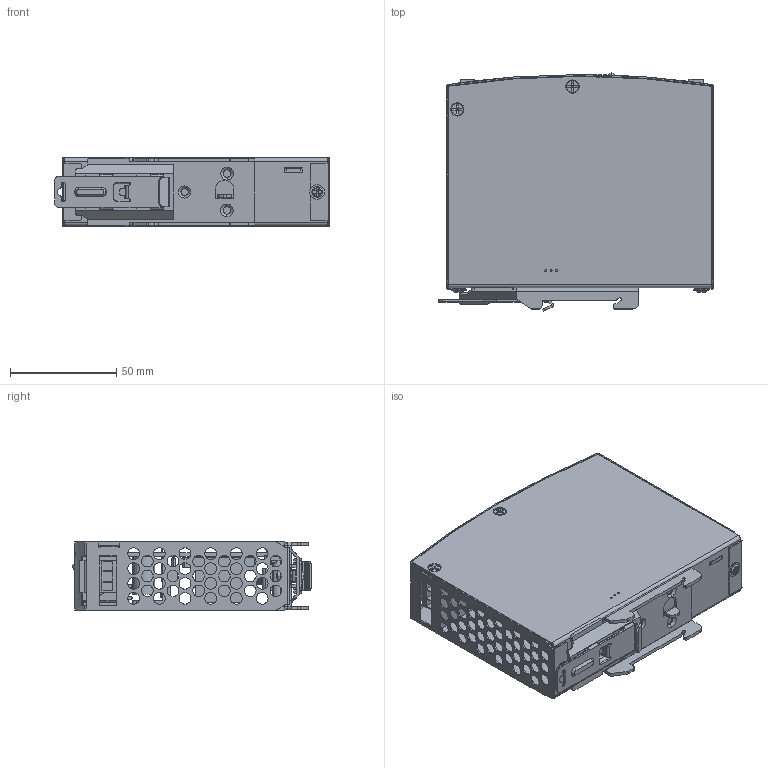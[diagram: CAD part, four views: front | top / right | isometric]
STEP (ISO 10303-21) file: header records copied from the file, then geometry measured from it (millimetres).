
FILE_DESCRIPTION((''),'2;1');
FILE_NAME('YSD60-2022__ASM','2023-03-25T',('Administrator'),(''),'PRO/ENGINEER BY PARAMETRIC TECHNOLOGY CORPORATION, 2010280','PRO/ENGINEER BY PARAMETRIC TECHNOLOGY CORPORATION, 2010280','');
FILE_SCHEMA(('CONFIG_CONTROL_DESIGN','SHAPE_APPEARANCE_LAYERS_GROUPS'));
Products named in the file (47): MANIFOLD_SOLID_BREP_8550; _716BC_S_2A_1; 716BC_S_2A_1_ASM_ASM; 75ST_2A_1; 12011-F_S_2A_1; 716AC_S_2A_1; PRT0002C_S_2A_1; M3P4_S_2A_1; PM3L10_2A_1; M3-6C_S_2A_1; M3-P6_S_2A_1; YSD60-2022_ASM_1_ASM_ASM; YSD60-2022_ASM_ASM_ASM; P2; P1; PIN; UU; HS3_ASM; HS2; GG; ASM0004_ASM; LED; VR; _S___S_O_S_JL_1_1-8255; _S___S_O_S_JL_1_1-8444; _S___S_O_S_JL_1_1-8624; _S___S_O_S_JL_1_1-8804; _S___S_O_S_JL_1_1-8984; _S___S_O_S_JL-6711_ASM; _S___S_O_S_JL-9044; MOSTO3P; A1_ASM; PCB2; PCB2_ASM; PCB1-15184; PCB1-15145_ASM; MOS15_5X10_1_1_1_1_1_1_2_1; MOS15_5X10_1_1_1_1_1_1_2; MOS_ASM; A2_ASM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
Assembly tree (53 placements, depth 6):
  YSD60-2022__ASM
    YSD60-2022_ASM_ASM_ASM
      YSD60-2022_ASM_1_ASM_ASM
        716BC_S_2A_1_ASM_ASM
          MANIFOLD_SOLID_BREP_8550
          _716BC_S_2A_1
        75ST_2A_1
        12011-F_S_2A_1
        716AC_S_2A_1
        PRT0002C_S_2A_1
        M3P4_S_2A_1  x4
        PM3L10_2A_1  x2
        M3-6C_S_2A_1  x2
        M3-P6_S_2A_1  x2
    WDR-60-3D_ASM
      ASM0003_ASM
        P2
        P1
        HS3_ASM
          PIN  x2
          UU
        HS2
        ASM0004_ASM
          GG
        LED
        VR
        A1_ASM
          _S___S_O_S_JL-6711_ASM
            _S___S_O_S_JL_1_1-8255
            _S___S_O_S_JL_1_1-8444
            _S___S_O_S_JL_1_1-8624
            _S___S_O_S_JL_1_1-8804
            _S___S_O_S_JL_1_1-8984
          _S___S_O_S_JL-9044
          MOSTO3P
        A2_ASM
          PCB2_ASM
            PCB2
          PCB1-15145_ASM
            PCB1-15184
          MOS_ASM
            MOS15_5X10_1_1_1_1_1_1_2_1
            MOS15_5X10_1_1_1_1_1_1_2
        _X2_639B5EA75C0F_X0__ASM
          F
          P3
          P1_1
Bounding box: 129.21 x 112.1 x 32 mm (x, y, z)
Volume: 121757.9 mm3; surface area: 144022.5 mm2
Topology: 38 solids, 38 shells, 2136 faces, 5567 edges, 3557 vertices
Faces by surface type: plane 942, cylinder 890, bspline 158, cone 66, torus 48, extrusion 16, sphere 16
Entity records: 75910 total; most frequent: CARTESIAN_POINT 24291, DIRECTION 9102, ORIENTED_EDGE 8980, EDGE_CURVE 4490, AXIS2_PLACEMENT_3D 3232, VERTEX_POINT 2894, VECTOR 2638, LINE 2631
